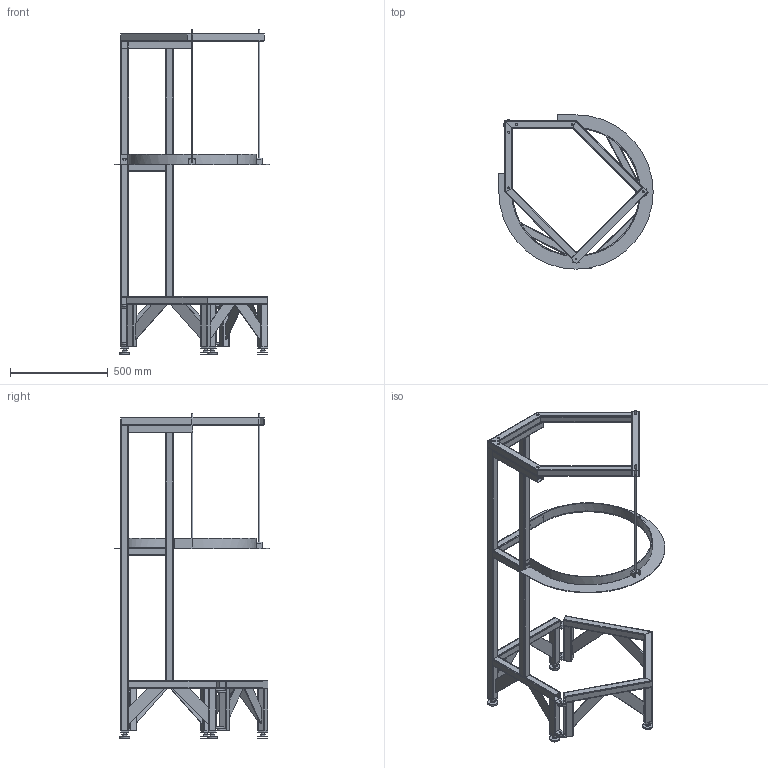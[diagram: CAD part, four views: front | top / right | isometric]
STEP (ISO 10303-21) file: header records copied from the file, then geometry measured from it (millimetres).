
FILE_DESCRIPTION(/* description */ (''),/* implementation_level */ '2;1');
FILE_NAME(/* name */ 'C:\ADSK_DM_WS\CAD_3D\03 Geraete\Odeon\Zeichnungen\2020-00397.stp',/* time_stamp */ '2021-08-18T13:49:01+02:00',/* author */ ('CPI'),/* organization */ (''),/* preprocessor_version */ 'ST-DEVELOPER v18.1',/* originating_system */ 'Autodesk Inventor 2022',/* authorisation */ '');
FILE_SCHEMA (('AUTOMOTIVE_DESIGN { 1 0 10303 214 3 1 1 }'));
Length unit declared in the file: millimetre
Products named in the file (1): 2020-00397
Bounding box: 790 x 790 x 1666 mm (x, y, z)
Volume: 4995075.1 mm3; surface area: 3970886.2 mm2
Topology: 3 solids, 3 shells, 1332 faces, 3544 edges, 2108 vertices
Faces by surface type: plane 769, cylinder 455, cone 84, bspline 24
Full cylindrical faces by diameter (mm): 8 x2, 10 x24, 16 x10, 30 x5
Entity records: 43958 total; most frequent: CARTESIAN_POINT 9319, ORIENTED_EDGE 7096, DIRECTION 6906, EDGE_CURVE 3548, AXIS2_PLACEMENT_3D 2307, LINE 2292, VECTOR 2292, VERTEX_POINT 2108
